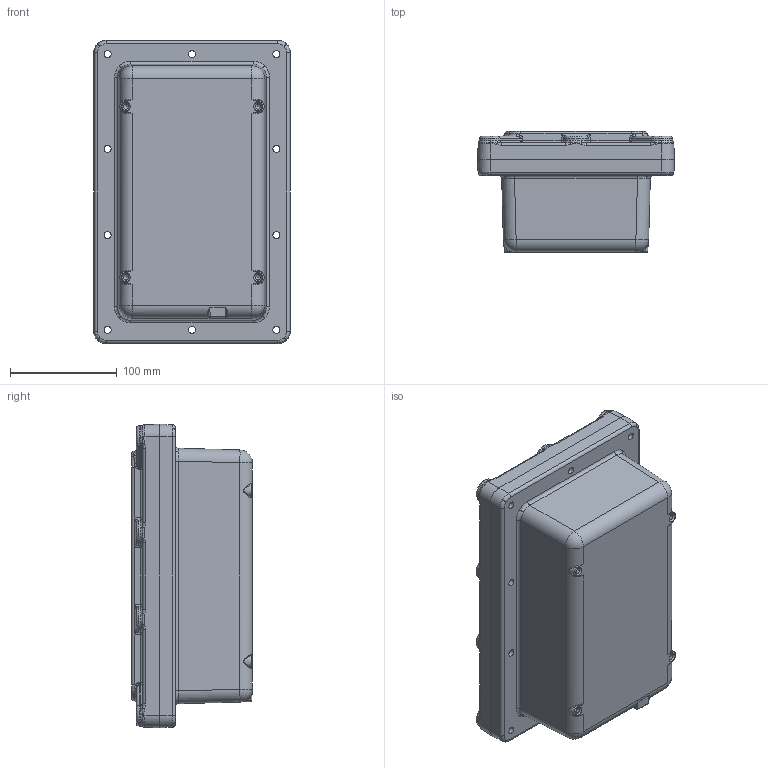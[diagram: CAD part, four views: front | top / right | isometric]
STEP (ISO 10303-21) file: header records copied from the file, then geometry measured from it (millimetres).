
FILE_DESCRIPTION(('STEP AP203'), '1');
FILE_NAME('Ñáîðêà_Êîðïóñ Â05-01', '', ('UNSPECIFIED'), ('UNSPECIFIED'), 'C3D Converter', 'C3D Toolkit', '');
FILE_SCHEMA(('CONFIG_CONTROL_DESIGN'));
Length unit declared in the file: millimetre
Products named in the file (3): В05-01; В05-02
Assembly tree (2 placements, depth 2):
  (unnamed)
    В05-01
    В05-02
Bounding box: 184 x 113 x 284 mm (x, y, z)
Volume: 2209905.7 mm3; surface area: 352557.4 mm2
Topology: 2 solids, 2 shells, 1318 faces, 3417 edges, 2103 vertices
Faces by surface type: cylinder 754, bspline 216, plane 188, cone 60, torus 60, sphere 40
Full cylindrical faces by diameter (mm): 4.134 x5, 4.917 x4, 6.647 x10, 9 x20, 16 x10
Entity records: 72269 total; most frequent: CARTESIAN_POINT 30659, ORIENTED_EDGE 6576, DIRECTION 6525, EDGE_CURVE 3288, AXIS2_PLACEMENT_3D 2705, VERTEX_POINT 2091, CIRCLE 1601, EDGE_LOOP 1473
